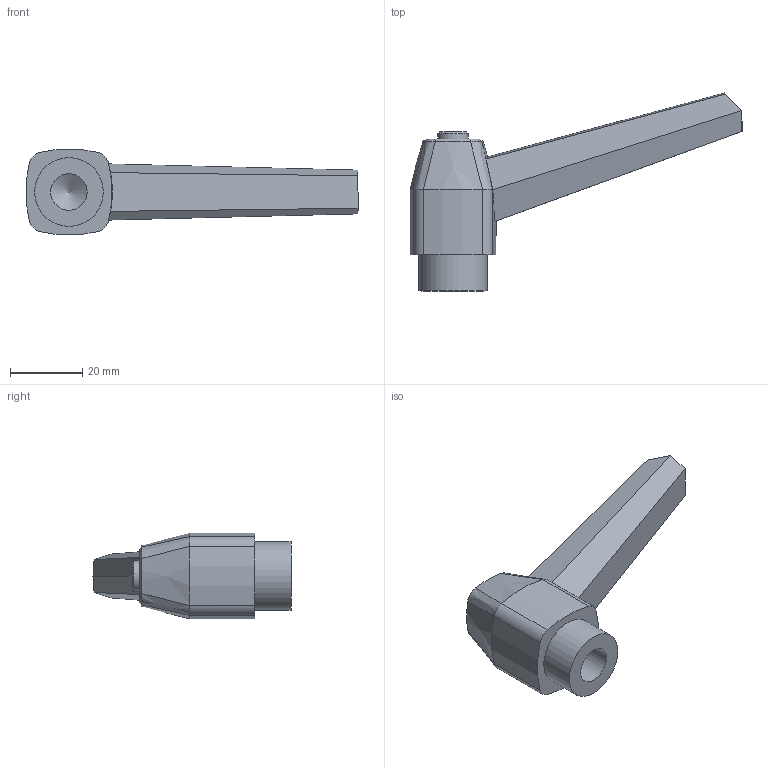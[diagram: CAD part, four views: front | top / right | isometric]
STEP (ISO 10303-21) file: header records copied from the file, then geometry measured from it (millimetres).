
FILE_DESCRIPTION (( 'STEP AP214' ), '1' );
FILE_NAME ('500-80-M12-OR.step', '2022-04-13T07:19:46', ( '' ), ( '' ), 'SwSTEP 2.0', 'SolidWorks 2019', '' );
FILE_SCHEMA (( 'AUTOMOTIVE_DESIGN' ));
Length unit declared in the file: millimetre
Products named in the file (1): 500-80-M12-OR
Bounding box: 91.88 x 54.8 x 23.76 mm (x, y, z)
Volume: 27954.8 mm3; surface area: 8007 mm2
Topology: 1 solids, 1 shells, 51 faces, 123 edges, 78 vertices
Faces by surface type: plane 21, cylinder 12, cone 10, bspline 8
Full cylindrical faces by diameter (mm): 8.5 x1, 10 x1, 10.1 x1, 19 x1
Entity records: 2319 total; most frequent: CARTESIAN_POINT 817, ORIENTED_EDGE 232, DIRECTION 182, EDGE_CURVE 116, VERTEX_POINT 77, AXIS2_PLACEMENT_3D 74, EDGE_LOOP 61, FACE_OUTER_BOUND 55
